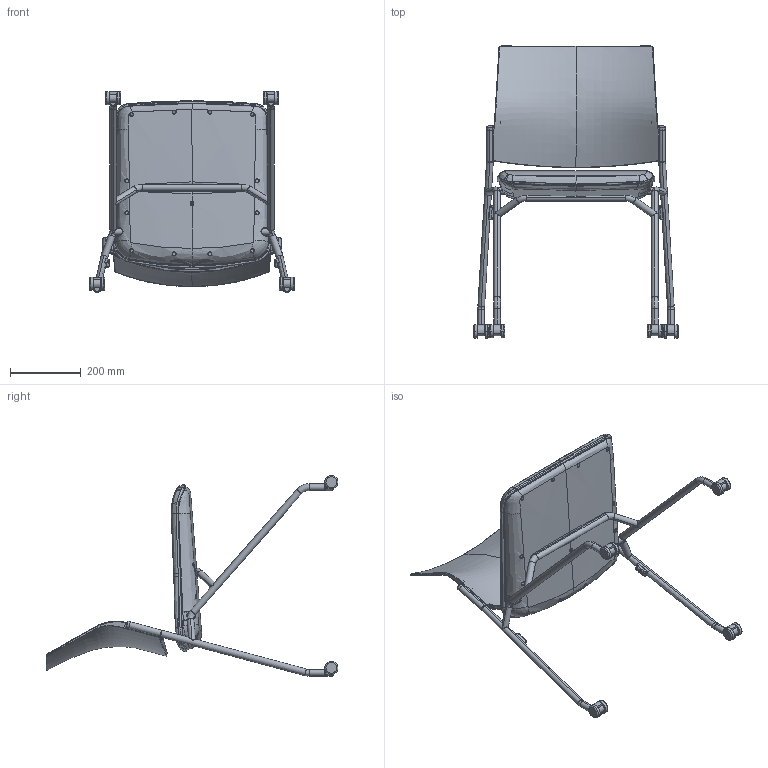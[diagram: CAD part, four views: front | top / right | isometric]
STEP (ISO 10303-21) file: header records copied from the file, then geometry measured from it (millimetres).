
FILE_DESCRIPTION (( 'STEP AP203' ), '1' );
FILE_NAME ('11058-NA, Nester Armless Poly Back Uph Seat, Rev A_Marketing.STEP', '2019-01-30T20:19:03', ( '' ), ( '' ), 'SwSTEP 2.0', 'SolidWorks 2018', '' );
FILE_SCHEMA (( 'CONFIG_CONTROL_DESIGN' ));
Length unit declared in the file: inch
Products named in the file (1): 11058-NA, Nester Armless Poly Back Uph Seat, Rev A_Marketing
Bounding box: 577.49 x 822.76 x 566.05 mm (x, y, z)
Surface area: 1483158.1 mm2 (no closed solid volume)
Topology: 0 solids, 46 shells, 555 faces, 1814 edges, 1257 vertices
Faces by surface type: bspline 292, cylinder 103, plane 63, cone 59, torus 30, sphere 8
Entity records: 70454 total; most frequent: CARTESIAN_POINT 57958, ORIENTED_EDGE 2826, EDGE_CURVE 1796, DIRECTION 1720, VERTEX_POINT 1247, B_SPLINE_CURVE_WITH_KNOTS 1021, AXIS2_PLACEMENT_3D 741, EDGE_LOOP 596
